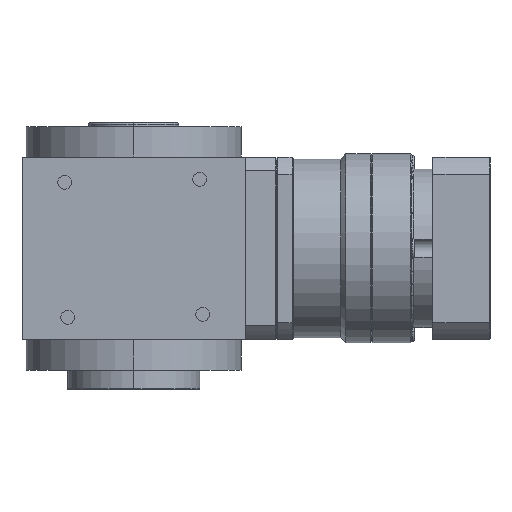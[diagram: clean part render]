
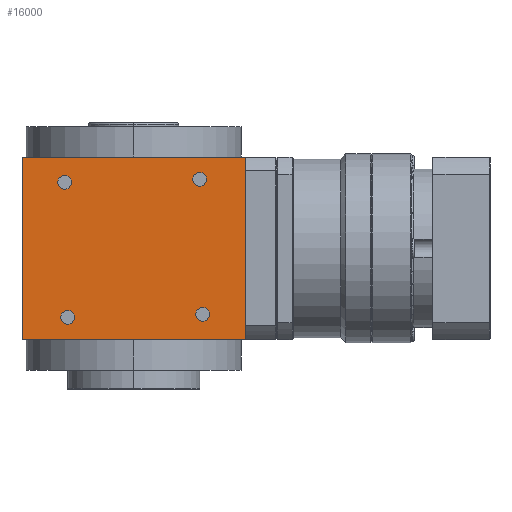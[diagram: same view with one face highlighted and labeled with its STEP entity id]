
A CAD part, left-side view. The second image highlights one B-rep face of the part: STEP entity #16000.
In plain terms, the highlighted planar face has unit normal (-1, 0, 0).
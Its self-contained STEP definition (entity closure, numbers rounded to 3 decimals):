
#317 = CARTESIAN_POINT ( 'NONE',  ( -55., 55., -45. ) ) ;
#1023 = ORIENTED_EDGE ( 'NONE', *, *, #12472, .T. ) ;
#1035 = ORIENTED_EDGE ( 'NONE', *, *, #9954, .T. ) ;
#1599 = EDGE_LOOP ( 'NONE', ( #11332, #12549 ) ) ;
#1687 = AXIS2_PLACEMENT_3D ( 'NONE', #11140, #9040, #24688 ) ;
#1913 = CARTESIAN_POINT ( 'NONE',  ( -55., 55., -45. ) ) ;
#2343 = CARTESIAN_POINT ( 'NONE',  ( -55., -55., -45. ) ) ;
#3024 = CARTESIAN_POINT ( 'NONE',  ( -55., -35.9, 34. ) ) ;
#3077 = CIRCLE ( 'NONE', #10225, 3.4 ) ;
#3085 = EDGE_CURVE ( 'NONE', #12813, #7897, #12774, .T. ) ;
#3715 = EDGE_LOOP ( 'NONE', ( #1035, #17310 ) ) ;
#3794 = DIRECTION ( 'NONE',  ( 1., 0., 0. ) ) ;
#4564 = VERTEX_POINT ( 'NONE', #20749 ) ;
#4662 = DIRECTION ( 'NONE',  ( 0., 0., -1. ) ) ;
#5689 = CARTESIAN_POINT ( 'NONE',  ( -55., 34., 32.5 ) ) ;
#7026 = VERTEX_POINT ( 'NONE', #3024 ) ;
#7057 = CARTESIAN_POINT ( 'NONE',  ( -55., 55., -45. ) ) ;
#7117 = DIRECTION ( 'NONE',  ( 1., 0., 0. ) ) ;
#7736 = CIRCLE ( 'NONE', #15267, 3.4 ) ;
#7897 = VERTEX_POINT ( 'NONE', #18641 ) ;
#8107 = DIRECTION ( 'NONE',  ( 1., 0., 0. ) ) ;
#8245 = VECTOR ( 'NONE', #23089, 1000. ) ;
#8451 = AXIS2_PLACEMENT_3D ( 'NONE', #11040, #13278, #21282 ) ;
#8461 = DIRECTION ( 'NONE',  ( 0., -1., 0. ) ) ;
#9040 = DIRECTION ( 'NONE',  ( 1., 0., 0. ) ) ;
#9080 = ORIENTED_EDGE ( 'NONE', *, *, #3085, .T. ) ;
#9183 = EDGE_CURVE ( 'NONE', #11995, #7026, #11769, .T. ) ;
#9755 = DIRECTION ( 'NONE',  ( 1., 0., 0. ) ) ;
#9906 = VECTOR ( 'NONE', #4662, 1000. ) ;
#9954 = EDGE_CURVE ( 'NONE', #7026, #11995, #17248, .T. ) ;
#10085 = ORIENTED_EDGE ( 'NONE', *, *, #23015, .T. ) ;
#10210 = FACE_BOUND ( 'NONE', #3715, .T. ) ;
#10225 = AXIS2_PLACEMENT_3D ( 'NONE', #10340, #8107, #16377 ) ;
#10263 = AXIS2_PLACEMENT_3D ( 'NONE', #19929, #12314, #18341 ) ;
#10310 = LINE ( 'NONE', #317, #10393 ) ;
#10340 = CARTESIAN_POINT ( 'NONE',  ( -55., 32.5, -34. ) ) ;
#10393 = VECTOR ( 'NONE', #8461, 1000. ) ;
#10475 = CIRCLE ( 'NONE', #17190, 3.4 ) ;
#10740 = VERTEX_POINT ( 'NONE', #25230 ) ;
#11040 = CARTESIAN_POINT ( 'NONE',  ( -55., -32.5, 34. ) ) ;
#11140 = CARTESIAN_POINT ( 'NONE',  ( -55., -32.5, 34. ) ) ;
#11292 = CARTESIAN_POINT ( 'NONE',  ( -55., 35.9, -34. ) ) ;
#11332 = ORIENTED_EDGE ( 'NONE', *, *, #24335, .T. ) ;
#11403 = LINE ( 'NONE', #19146, #8245 ) ;
#11423 = DIRECTION ( 'NONE',  ( 0., -1., 0. ) ) ;
#11636 = ORIENTED_EDGE ( 'NONE', *, *, #20025, .T. ) ;
#11769 = CIRCLE ( 'NONE', #1687, 3.4 ) ;
#11811 = CARTESIAN_POINT ( 'NONE',  ( -55., 30.6, 32.5 ) ) ;
#11995 = VERTEX_POINT ( 'NONE', #14115 ) ;
#12014 = ORIENTED_EDGE ( 'NONE', *, *, #13478, .T. ) ;
#12314 = DIRECTION ( 'NONE',  ( 1., 0., 0. ) ) ;
#12347 = DIRECTION ( 'NONE',  ( 0., 0., 1. ) ) ;
#12472 = EDGE_CURVE ( 'NONE', #13635, #4564, #7736, .T. ) ;
#12549 = ORIENTED_EDGE ( 'NONE', *, *, #24620, .T. ) ;
#12774 = CIRCLE ( 'NONE', #10263, 3.4 ) ;
#12813 = VERTEX_POINT ( 'NONE', #11292 ) ;
#13082 = VERTEX_POINT ( 'NONE', #15044 ) ;
#13161 = CIRCLE ( 'NONE', #16099, 3.4 ) ;
#13278 = DIRECTION ( 'NONE',  ( 1., 0., 0. ) ) ;
#13435 = VERTEX_POINT ( 'NONE', #11811 ) ;
#13478 = EDGE_CURVE ( 'NONE', #4564, #13635, #13161, .T. ) ;
#13635 = VERTEX_POINT ( 'NONE', #14168 ) ;
#14015 = PLANE ( 'NONE',  #17678 ) ;
#14084 = DIRECTION ( 'NONE',  ( 0., -1., 0. ) ) ;
#14115 = CARTESIAN_POINT ( 'NONE',  ( -55., -29.1, 34. ) ) ;
#14168 = CARTESIAN_POINT ( 'NONE',  ( -55., -37.4, -32.5 ) ) ;
#14511 = EDGE_CURVE ( 'NONE', #7897, #12813, #3077, .T. ) ;
#14535 = ORIENTED_EDGE ( 'NONE', *, *, #20678, .T. ) ;
#14685 = CIRCLE ( 'NONE', #23063, 3.4 ) ;
#15044 = CARTESIAN_POINT ( 'NONE',  ( -55., -55., 45. ) ) ;
#15267 = AXIS2_PLACEMENT_3D ( 'NONE', #25909, #9755, #14084 ) ;
#15534 = DIRECTION ( 'NONE',  ( 1., 0., 0. ) ) ;
#15628 = EDGE_CURVE ( 'NONE', #22578, #13082, #20347, .T. ) ;
#15772 = ORIENTED_EDGE ( 'NONE', *, *, #14511, .T. ) ;
#15796 = VERTEX_POINT ( 'NONE', #7057 ) ;
#15854 = FACE_BOUND ( 'NONE', #24005, .T. ) ;
#16000 = ADVANCED_FACE ( 'NONE', ( #19927, #15854, #22149, #10210, #17961 ), #14015, .T. ) ;
#16099 = AXIS2_PLACEMENT_3D ( 'NONE', #25480, #3794, #11423 ) ;
#16377 = DIRECTION ( 'NONE',  ( 0., -1., 0. ) ) ;
#16421 = CARTESIAN_POINT ( 'NONE',  ( -55., -55., -45. ) ) ;
#17146 = ORIENTED_EDGE ( 'NONE', *, *, #15628, .T. ) ;
#17190 = AXIS2_PLACEMENT_3D ( 'NONE', #25252, #7117, #17242 ) ;
#17242 = DIRECTION ( 'NONE',  ( 0., -1., 0. ) ) ;
#17248 = CIRCLE ( 'NONE', #8451, 3.4 ) ;
#17310 = ORIENTED_EDGE ( 'NONE', *, *, #9183, .T. ) ;
#17678 = AXIS2_PLACEMENT_3D ( 'NONE', #1913, #18339, #25969 ) ;
#17850 = EDGE_LOOP ( 'NONE', ( #10085, #14535, #17146, #11636 ) ) ;
#17961 = FACE_BOUND ( 'NONE', #1599, .T. ) ;
#18339 = DIRECTION ( 'NONE',  ( -1., 0., 0. ) ) ;
#18341 = DIRECTION ( 'NONE',  ( 0., -1., 0. ) ) ;
#18641 = CARTESIAN_POINT ( 'NONE',  ( -55., 29.1, -34. ) ) ;
#18837 = CARTESIAN_POINT ( 'NONE',  ( -55., 55., -45. ) ) ;
#19004 = VECTOR ( 'NONE', #12347, 1000. ) ;
#19146 = CARTESIAN_POINT ( 'NONE',  ( -55., 55., 45. ) ) ;
#19603 = DIRECTION ( 'NONE',  ( 0., -1., 0. ) ) ;
#19927 = FACE_OUTER_BOUND ( 'NONE', #17850, .T. ) ;
#19929 = CARTESIAN_POINT ( 'NONE',  ( -55., 32.5, -34. ) ) ;
#20025 = EDGE_CURVE ( 'NONE', #13082, #25096, #11403, .T. ) ;
#20347 = LINE ( 'NONE', #2343, #19004 ) ;
#20678 = EDGE_CURVE ( 'NONE', #15796, #22578, #10310, .T. ) ;
#20749 = CARTESIAN_POINT ( 'NONE',  ( -55., -30.6, -32.5 ) ) ;
#20940 = LINE ( 'NONE', #18837, #9906 ) ;
#21282 = DIRECTION ( 'NONE',  ( 0., -1., 0. ) ) ;
#21661 = EDGE_LOOP ( 'NONE', ( #1023, #12014 ) ) ;
#22149 = FACE_BOUND ( 'NONE', #21661, .T. ) ;
#22578 = VERTEX_POINT ( 'NONE', #16421 ) ;
#23015 = EDGE_CURVE ( 'NONE', #25096, #15796, #20940, .T. ) ;
#23063 = AXIS2_PLACEMENT_3D ( 'NONE', #5689, #15534, #19603 ) ;
#23089 = DIRECTION ( 'NONE',  ( 0., 1., 0. ) ) ;
#24005 = EDGE_LOOP ( 'NONE', ( #15772, #9080 ) ) ;
#24335 = EDGE_CURVE ( 'NONE', #13435, #10740, #10475, .T. ) ;
#24620 = EDGE_CURVE ( 'NONE', #10740, #13435, #14685, .T. ) ;
#24688 = DIRECTION ( 'NONE',  ( 0., -1., 0. ) ) ;
#25096 = VERTEX_POINT ( 'NONE', #25760 ) ;
#25230 = CARTESIAN_POINT ( 'NONE',  ( -55., 37.4, 32.5 ) ) ;
#25252 = CARTESIAN_POINT ( 'NONE',  ( -55., 34., 32.5 ) ) ;
#25480 = CARTESIAN_POINT ( 'NONE',  ( -55., -34., -32.5 ) ) ;
#25760 = CARTESIAN_POINT ( 'NONE',  ( -55., 55., 45. ) ) ;
#25909 = CARTESIAN_POINT ( 'NONE',  ( -55., -34., -32.5 ) ) ;
#25969 = DIRECTION ( 'NONE',  ( 0., -1., 0. ) ) ;
